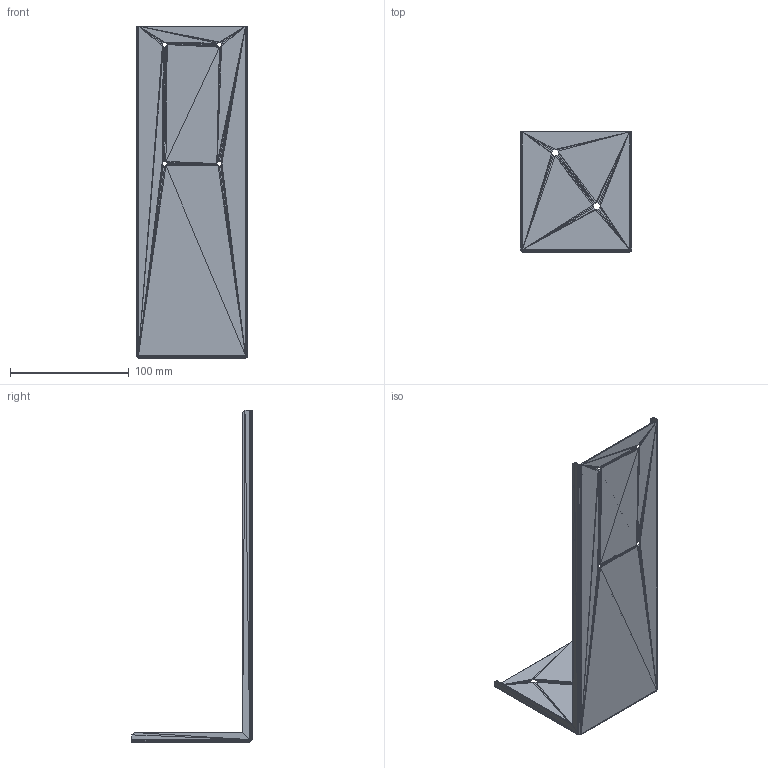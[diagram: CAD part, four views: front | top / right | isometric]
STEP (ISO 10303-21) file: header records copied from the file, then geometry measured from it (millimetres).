
FILE_DESCRIPTION((''),'2;1');
FILE_NAME('061066', '2025-12-16T09:53:51', (''), (''), 'ImageToStl.com STEP Converter','', '');
FILE_SCHEMA(('AUTOMOTIVE_DESIGN_CC2'));
Length unit declared in the file: metre
Products named in the file (1): product0
Bounding box: 94 x 101 x 279 mm (x, y, z)
Surface area: 81344.9 mm2 (no closed solid volume)
Topology: 0 solids, 536 shells, 536 faces, 1608 edges, 258 vertices
Faces by surface type: plane 536
Entity records: 12336 total; most frequent: DIRECTION 2682, ORIENTED_EDGE 1608, EDGE_CURVE 1608, LINE 1608, VECTOR 1608, AXIS2_PLACEMENT_3D 537, FACE_SURFACE 536, PLANE 536
